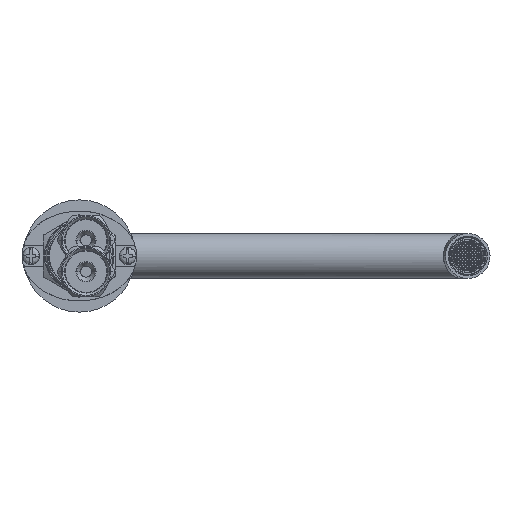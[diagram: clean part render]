
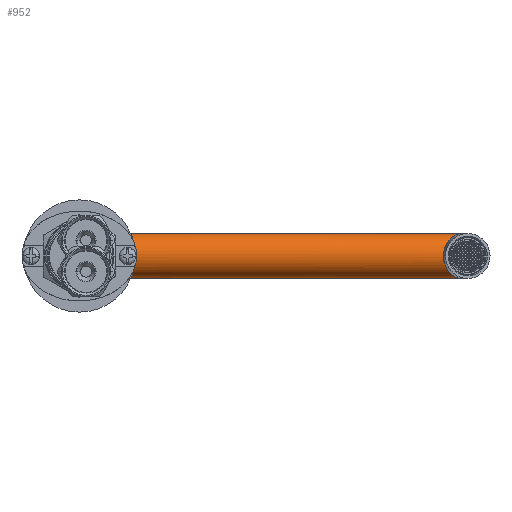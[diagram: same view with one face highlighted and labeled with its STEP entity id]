
A CAD part, front view. The second image highlights one B-rep face of the part: STEP entity #952.
In plain terms, the highlighted cylindrical face has radius 10 mm (diameter 20 mm), a partial arc.
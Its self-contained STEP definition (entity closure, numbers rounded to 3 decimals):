
#714=DIRECTION('',(0.,1.,0.));
#715=VECTOR('',#714,156.93);
#716=CARTESIAN_POINT('',(-10.,-703.866,133.683));
#717=LINE('',#716,#715);
#751=CARTESIAN_POINT('',(10.,-546.936,133.683));
#753=CARTESIAN_POINT('',(-10.,-703.866,133.683));
#767=CARTESIAN_POINT('',(10.,-703.866,133.683));
#769=CARTESIAN_POINT('',(10.,-703.866,133.683));
#770=CARTESIAN_POINT('',(10.,-702.859,132.504));
#771=CARTESIAN_POINT('',(9.573,-700.684,129.957));
#772=CARTESIAN_POINT('',(7.664,-698.155,126.997));
#773=CARTESIAN_POINT('',(5.504,-696.663,125.25));
#774=CARTESIAN_POINT('',(3.694,-695.868,124.318));
#775=CARTESIAN_POINT('',(1.806,-695.415,123.788));
#776=CARTESIAN_POINT('',(0.,-695.28,123.631));
#777=CARTESIAN_POINT('',(-1.806,-695.415,123.788));
#778=CARTESIAN_POINT('',(-3.694,-695.868,124.318));
#779=CARTESIAN_POINT('',(-5.504,-696.663,125.25));
#780=CARTESIAN_POINT('',(-7.664,-698.155,126.997));
#781=CARTESIAN_POINT('',(-9.573,-700.684,129.957));
#782=CARTESIAN_POINT('',(-10.,-702.859,132.504));
#783=CARTESIAN_POINT('',(-10.,-703.866,133.683));
#813=DIRECTION('',(0.,1.,0.));
#814=VECTOR('',#813,156.93);
#815=CARTESIAN_POINT('',(10.,-703.866,133.683));
#816=LINE('',#815,#814);
#817=CARTESIAN_POINT('',(10.,-546.936,133.683));
#818=CARTESIAN_POINT('',(10.,-546.936,133.378));
#819=CARTESIAN_POINT('',(9.972,-546.956,132.764));
#820=CARTESIAN_POINT('',(9.843,-547.049,131.837));
#821=CARTESIAN_POINT('',(9.622,-547.205,130.901));
#822=CARTESIAN_POINT('',(9.3,-547.421,129.962));
#823=CARTESIAN_POINT('',(8.868,-547.696,129.022));
#824=CARTESIAN_POINT('',(8.324,-548.016,128.106));
#825=CARTESIAN_POINT('',(7.667,-548.368,127.231));
#826=CARTESIAN_POINT('',(6.917,-548.725,126.434));
#827=CARTESIAN_POINT('',(6.09,-549.069,125.727));
#828=CARTESIAN_POINT('',(5.211,-549.379,125.126));
#829=CARTESIAN_POINT('',(4.293,-549.647,124.632));
#830=CARTESIAN_POINT('',(3.356,-549.863,124.245));
#831=CARTESIAN_POINT('',(2.403,-550.027,123.959));
#832=CARTESIAN_POINT('',(1.445,-550.136,123.772));
#833=CARTESIAN_POINT('',(0.48,-550.191,123.679));
#834=CARTESIAN_POINT('',(-0.481,-550.191,
123.679));
#835=CARTESIAN_POINT('',(-1.446,-550.136,123.772));
#836=CARTESIAN_POINT('',(-2.403,-550.027,123.959));
#837=CARTESIAN_POINT('',(-3.355,-549.863,124.245));
#838=CARTESIAN_POINT('',(-4.293,-549.647,124.632));
#839=CARTESIAN_POINT('',(-5.209,-549.38,125.125));
#840=CARTESIAN_POINT('',(-6.09,-549.069,125.727));
#841=CARTESIAN_POINT('',(-6.915,-548.726,126.432));
#842=CARTESIAN_POINT('',(-7.667,-548.368,127.232));
#843=CARTESIAN_POINT('',(-8.322,-548.017,128.103));
#844=CARTESIAN_POINT('',(-8.867,-547.696,129.02));
#845=CARTESIAN_POINT('',(-9.299,-547.422,129.959));
#846=CARTESIAN_POINT('',(-9.621,-547.205,130.899));
#847=CARTESIAN_POINT('',(-9.843,-547.049,131.835));
#848=CARTESIAN_POINT('',(-9.972,-546.956,132.764));
#849=CARTESIAN_POINT('',(-10.,-546.936,133.379));
#850=CARTESIAN_POINT('',(-10.,-546.936,133.683));
#898=VERTEX_POINT('',#753);
#899=VERTEX_POINT('',#767);
#900=CARTESIAN_POINT('',(-10.,-546.936,133.683));
#901=VERTEX_POINT('',#900);
#902=VERTEX_POINT('',#751);
#940=CARTESIAN_POINT('',(0.,-546.936,133.683));
#941=DIRECTION('',(0.,1.,0.));
#942=DIRECTION('',(-1.,0.,0.));
#943=AXIS2_PLACEMENT_3D('',#940,#941,#942);
#944=CYLINDRICAL_SURFACE('',#943,10.);
#945=ORIENTED_EDGE('',*,*,#929,.F.);
#946=ORIENTED_EDGE('',*,*,#918,.T.);
#948=ORIENTED_EDGE('',*,*,#947,.T.);
#949=ORIENTED_EDGE('',*,*,#914,.F.);
#950=EDGE_LOOP('',(#945,#946,#948,#949));
#951=FACE_OUTER_BOUND('',#950,.F.);
#784=B_SPLINE_CURVE_WITH_KNOTS('',3,(#769,#770,#771,#772,#773,#774,#775,#776,
#777,#778,#779,#780,#781,#782,#783),.UNSPECIFIED.,.F.,.F.,(4,1,1,1,1,1,1,1,1,1,
1,1,4),(0.,0.125,0.25,0.313,0.375,0.438,0.5,0.563,0.625,
0.688,0.75,0.875,1.),.UNSPECIFIED.);
#851=B_SPLINE_CURVE_WITH_KNOTS('',3,(#817,#818,#819,#820,#821,#822,#823,#824,
#825,#826,#827,#828,#829,#830,#831,#832,#833,#834,#835,#836,#837,#838,#839,#840,
#841,#842,#843,#844,#845,#846,#847,#848,#849,#850),.UNSPECIFIED.,.F.,.F.,(4,1,1,
1,1,1,1,1,1,1,1,1,1,1,1,1,1,1,1,1,1,1,1,1,1,1,1,1,1,1,1,4),(0.,
0.032,0.065,0.097,0.129,
0.161,0.194,0.226,0.258,
0.29,0.323,0.355,0.387,
0.419,0.452,0.484,0.516,
0.548,0.581,0.613,0.645,
0.677,0.71,0.742,0.774,
0.806,0.839,0.871,0.903,
0.935,0.968,1.),.UNSPECIFIED.);
#914=EDGE_CURVE('',#898,#901,#717,.T.);
#918=EDGE_CURVE('',#899,#902,#816,.T.);
#929=EDGE_CURVE('',#899,#898,#784,.T.);
#947=EDGE_CURVE('',#902,#901,#851,.T.);
#952=ADVANCED_FACE('',(#951),#944,.T.);
